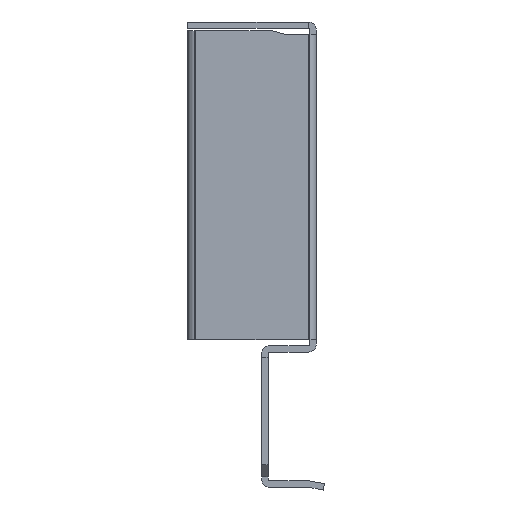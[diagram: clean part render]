
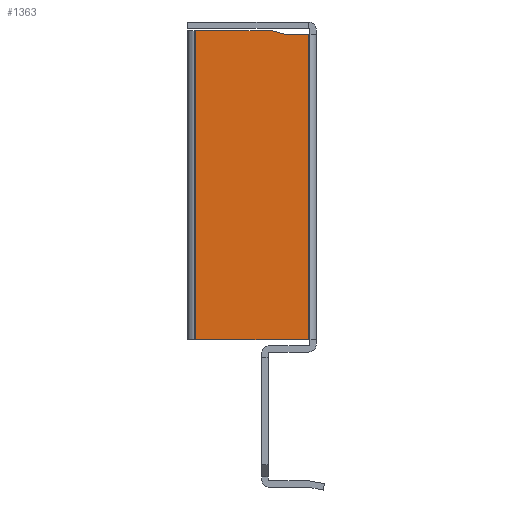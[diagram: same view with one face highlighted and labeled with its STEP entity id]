
A CAD part, left-side view. The second image highlights one B-rep face of the part: STEP entity #1363.
In plain terms, the highlighted planar face has unit normal (-1, 0, 0).
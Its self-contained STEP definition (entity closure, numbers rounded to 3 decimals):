
#111 = DIRECTION ( 'NONE',  ( 0., -1., 0. ) ) ;
#112 = DIRECTION ( 'NONE',  ( -1., 0., 0. ) ) ;
#113 = CARTESIAN_POINT ( 'NONE',  ( -180., -5., 74.385 ) ) ;
#114 = PLANE ( 'NONE',  #2014 ) ;
#257 = VERTEX_POINT ( 'NONE', #381 ) ;
#275 = VERTEX_POINT ( 'NONE', #380 ) ;
#276 = VERTEX_POINT ( 'NONE', #379 ) ;
#333 = CARTESIAN_POINT ( 'NONE',  ( -180., -0.507, 55.9 ) ) ;
#353 = CARTESIAN_POINT ( 'NONE',  ( -180., 9., 17.5 ) ) ;
#356 = CARTESIAN_POINT ( 'NONE',  ( -180., 9., 55.9 ) ) ;
#379 = CARTESIAN_POINT ( 'NONE',  ( -180., -5., 17.5 ) ) ;
#380 = CARTESIAN_POINT ( 'NONE',  ( -180., -5., 55.5 ) ) ;
#381 = CARTESIAN_POINT ( 'NONE',  ( -180., -2., 55.5 ) ) ;
#457 = VERTEX_POINT ( 'NONE', #356 ) ;
#460 = VERTEX_POINT ( 'NONE', #353 ) ;
#493 = VERTEX_POINT ( 'NONE', #333 ) ;
#726 = ORIENTED_EDGE ( 'NONE', *, *, #1789, .F. ) ;
#727 = ORIENTED_EDGE ( 'NONE', *, *, #1790, .F. ) ;
#728 = ORIENTED_EDGE ( 'NONE', *, *, #1975, .T. ) ;
#729 = ORIENTED_EDGE ( 'NONE', *, *, #1788, .T. ) ;
#730 = ORIENTED_EDGE ( 'NONE', *, *, #1857, .F. ) ;
#731 = ORIENTED_EDGE ( 'NONE', *, *, #1791, .F. ) ;
#872 = FACE_OUTER_BOUND ( 'NONE', #1565, .T. ) ;
#978 = LINE ( 'NONE', #2399, #979 ) ;
#979 = VECTOR ( 'NONE', #2397, 1000. ) ;
#980 = LINE ( 'NONE', #2396, #981 ) ;
#981 = VECTOR ( 'NONE', #2394, 1000. ) ;
#982 = LINE ( 'NONE', #2393, #983 ) ;
#983 = VECTOR ( 'NONE', #2390, 1000. ) ;
#984 = LINE ( 'NONE', #2389, #985 ) ;
#985 = VECTOR ( 'NONE', #2388, 1000. ) ;
#1097 = LINE ( 'NONE', #1699, #1099 ) ;
#1099 = VECTOR ( 'NONE', #1696, 1000. ) ;
#1313 = LINE ( 'NONE', #2185, #1314 ) ;
#1314 = VECTOR ( 'NONE', #2186, 1000. ) ;
#1363 = ADVANCED_FACE ( 'NONE', ( #872 ), #114, .T. ) ;
#1565 = EDGE_LOOP ( 'NONE', ( #726, #727, #728, #729, #730, #731 ) ) ;
#1696 = DIRECTION ( 'NONE',  ( 0., 1., 0. ) ) ;
#1699 = CARTESIAN_POINT ( 'NONE',  ( -180., -5., 17.5 ) ) ;
#1788 = EDGE_CURVE ( 'NONE', #457, #460, #978, .T. ) ;
#1789 = EDGE_CURVE ( 'NONE', #257, #275, #980, .T. ) ;
#1790 = EDGE_CURVE ( 'NONE', #493, #257, #982, .T. ) ;
#1791 = EDGE_CURVE ( 'NONE', #275, #276, #984, .T. ) ;
#1857 = EDGE_CURVE ( 'NONE', #276, #460, #1097, .T. ) ;
#1975 = EDGE_CURVE ( 'NONE', #493, #457, #1313, .T. ) ;
#2014 = AXIS2_PLACEMENT_3D ( 'NONE', #113, #112, #111 ) ;
#2185 = CARTESIAN_POINT ( 'NONE',  ( -180., -5., 55.9 ) ) ;
#2186 = DIRECTION ( 'NONE',  ( 0., 1., 0. ) ) ;
#2388 = DIRECTION ( 'NONE',  ( 0., 0., -1. ) ) ;
#2389 = CARTESIAN_POINT ( 'NONE',  ( -180., -5., 74.385 ) ) ;
#2390 = DIRECTION ( 'NONE',  ( 0., -0.966, -0.259 ) ) ;
#2393 = CARTESIAN_POINT ( 'NONE',  ( -180., 0.612, 56.2 ) ) ;
#2394 = DIRECTION ( 'NONE',  ( 0., -1., 0. ) ) ;
#2396 = CARTESIAN_POINT ( 'NONE',  ( -180., -2., 55.5 ) ) ;
#2397 = DIRECTION ( 'NONE',  ( 0., 0., -1. ) ) ;
#2399 = CARTESIAN_POINT ( 'NONE',  ( -180., 9., 74.385 ) ) ;
